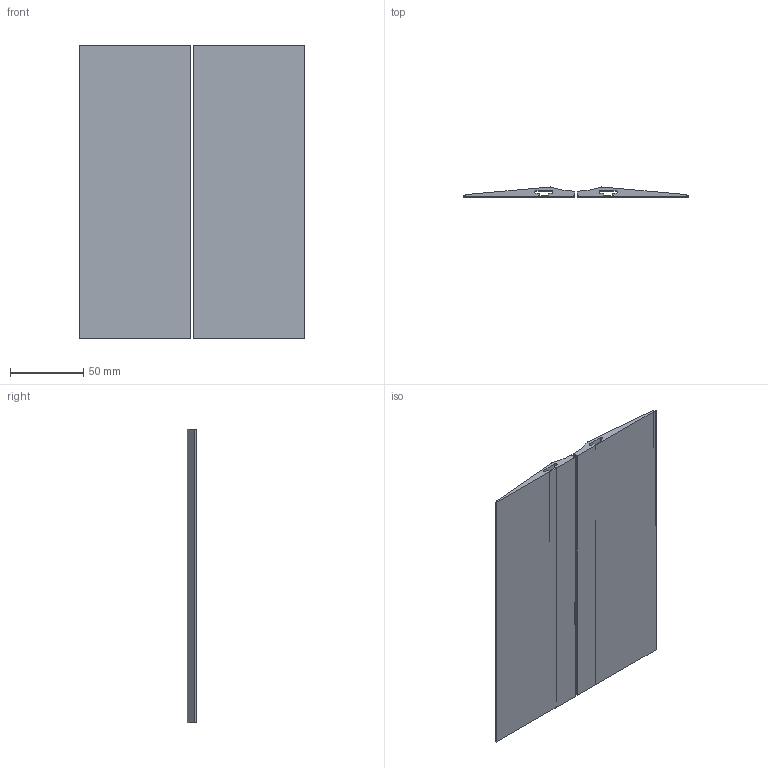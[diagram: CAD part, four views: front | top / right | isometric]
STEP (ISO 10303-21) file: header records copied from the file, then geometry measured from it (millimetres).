
FILE_DESCRIPTION(/* description */ ('STEP AP203'),/* implementation_level */ '2;1');
FILE_NAME(/* name */ '02081ALL.0800',/* time_stamp */ '2026-01-27T14:17:57+01:00',/* author */ ('License CC BY-ND 4.0'),/* organization */ ('CADENAS'),/* preprocessor_version */ 'ST-DEVELOPER v20',/* originating_system */ 'PARTsolutions',/* authorisation */ ' ');
FILE_SCHEMA (('CONFIG_CONTROL_DESIGN'));
Length unit declared in the file: millimetre
Products named in the file (2): 02081ALL.0800; 02081ALL.08001
Assembly tree (2 placements, depth 2):
  02081ALL.0800
    02081ALL.08001  x2
Bounding box: 154 x 6.5 x 200 mm (x, y, z)
Volume: 107382.2 mm3; surface area: 77022 mm2
Topology: 2 solids, 2 shells, 52 faces, 144 edges, 96 vertices
Faces by surface type: plane 32, cylinder 20
Entity records: 888 total; most frequent: DIRECTION 150, CARTESIAN_POINT 149, ORIENTED_EDGE 144, EDGE_CURVE 72, LINE 52, VECTOR 52, AXIS2_PLACEMENT_3D 49, VERTEX_POINT 48
